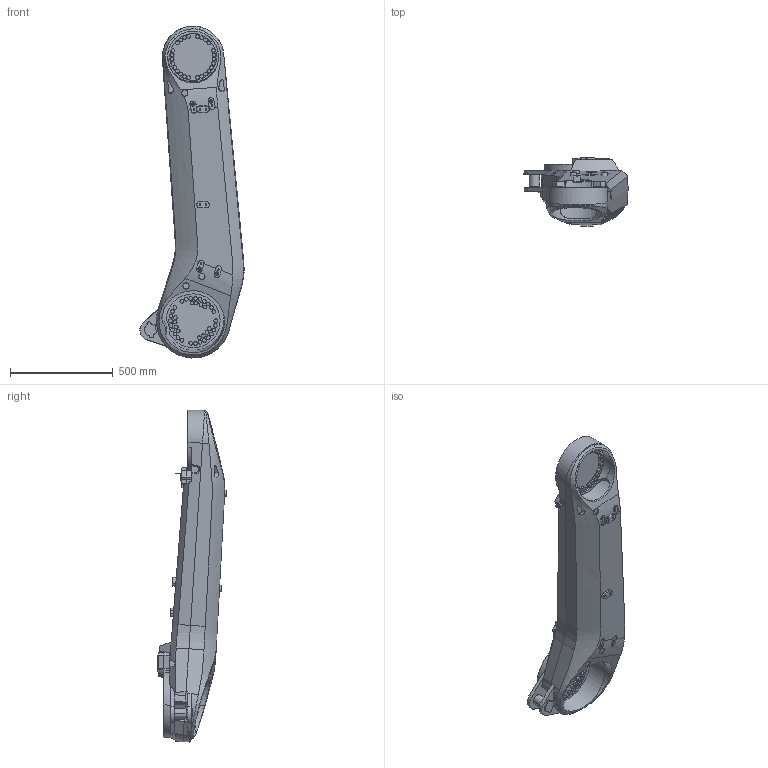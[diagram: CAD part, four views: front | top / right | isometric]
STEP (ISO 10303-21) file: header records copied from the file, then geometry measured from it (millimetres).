
FILE_DESCRIPTION (( 'STEP AP214' ), '1' );
FILE_NAME ('IRB6720-LID_150kg-310_OC_00_LINK02_CAD.step', '2026-05-26T07:55:23', ( '' ), ( '' ), 'SwSTEP 2.0', 'SolidWorks 2024', '' );
FILE_SCHEMA (( 'AUTOMOTIVE_DESIGN' ));
Length unit declared in the file: millimetre
Products named in the file (1): IRB6720-LID_150kg-310_OC_00_LINK02_CAD
Bounding box: 508.09 x 336 x 1618.33 mm (x, y, z)
Volume: 75316747.3 mm3; surface area: 1997417 mm2
Topology: 1 solids, 1 shells, 782 faces, 1894 edges, 1203 vertices
Faces by surface type: plane 327, cylinder 266, bspline 106, cone 73, torus 10
Entity records: 57977 total; most frequent: CARTESIAN_POINT 32030, ORIENTED_EDGE 3720, DIRECTION 3289, EDGE_CURVE 1860, AXIS2_PLACEMENT_3D 1223, VERTEX_POINT 1203, EDGE_LOOP 907, LINE 843
